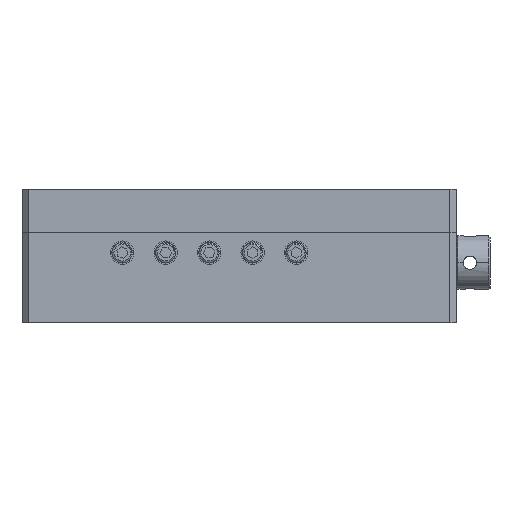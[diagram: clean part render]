
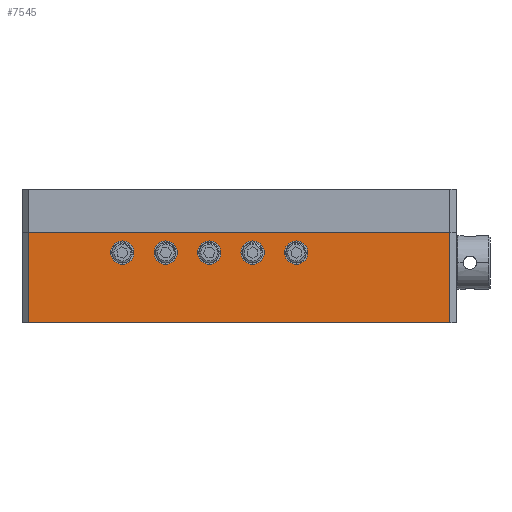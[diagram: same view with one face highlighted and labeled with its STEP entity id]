
A CAD part, front view. The second image highlights one B-rep face of the part: STEP entity #7545.
In plain terms, the highlighted planar face has unit normal (0, -1, 0).
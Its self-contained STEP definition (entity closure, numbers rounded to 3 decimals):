
#744=DIRECTION('',(1.,0.,0.));
#745=VECTOR('',#744,63.);
#746=CARTESIAN_POINT('',(-31.5,-32.5,15.5));
#747=LINE('',#746,#745);
#822=CARTESIAN_POINT('',(8.5,-32.5,12.5));
#823=DIRECTION('',(0.,-1.,0.));
#824=DIRECTION('',(1.,0.,0.));
#825=AXIS2_PLACEMENT_3D('',#822,#823,#824);
#827=CARTESIAN_POINT('',(8.5,-32.5,12.5));
#828=DIRECTION('',(0.,-1.,0.));
#829=DIRECTION('',(-1.,0.,0.));
#830=AXIS2_PLACEMENT_3D('',#827,#828,#829);
#832=CARTESIAN_POINT('',(2.,-32.5,12.5));
#833=DIRECTION('',(0.,-1.,0.));
#834=DIRECTION('',(1.,0.,0.));
#835=AXIS2_PLACEMENT_3D('',#832,#833,#834);
#837=CARTESIAN_POINT('',(2.,-32.5,12.5));
#838=DIRECTION('',(0.,-1.,0.));
#839=DIRECTION('',(-1.,0.,0.));
#840=AXIS2_PLACEMENT_3D('',#837,#838,#839);
#842=CARTESIAN_POINT('',(-4.5,-32.5,12.5));
#843=DIRECTION('',(0.,-1.,0.));
#844=DIRECTION('',(1.,0.,0.));
#845=AXIS2_PLACEMENT_3D('',#842,#843,#844);
#847=CARTESIAN_POINT('',(-4.5,-32.5,12.5));
#848=DIRECTION('',(0.,-1.,0.));
#849=DIRECTION('',(-1.,0.,0.));
#850=AXIS2_PLACEMENT_3D('',#847,#848,#849);
#852=CARTESIAN_POINT('',(-11.,-32.5,12.5));
#853=DIRECTION('',(0.,-1.,0.));
#854=DIRECTION('',(1.,0.,0.));
#855=AXIS2_PLACEMENT_3D('',#852,#853,#854);
#857=CARTESIAN_POINT('',(-11.,-32.5,12.5));
#858=DIRECTION('',(0.,-1.,0.));
#859=DIRECTION('',(-1.,0.,0.));
#860=AXIS2_PLACEMENT_3D('',#857,#858,#859);
#862=CARTESIAN_POINT('',(-17.5,-32.5,12.5));
#863=DIRECTION('',(0.,-1.,0.));
#864=DIRECTION('',(1.,0.,0.));
#865=AXIS2_PLACEMENT_3D('',#862,#863,#864);
#867=CARTESIAN_POINT('',(-17.5,-32.5,12.5));
#868=DIRECTION('',(0.,-1.,0.));
#869=DIRECTION('',(-1.,0.,0.));
#870=AXIS2_PLACEMENT_3D('',#867,#868,#869);
#872=DIRECTION('',(1.,0.,0.));
#873=VECTOR('',#872,63.);
#874=CARTESIAN_POINT('',(-31.5,-32.5,2.));
#875=LINE('',#874,#873);
#876=DIRECTION('',(0.,0.,-1.));
#877=VECTOR('',#876,13.5);
#878=CARTESIAN_POINT('',(-31.5,-32.5,15.5));
#879=LINE('',#878,#877);
#880=DIRECTION('',(0.,0.,1.));
#881=VECTOR('',#880,13.5);
#882=CARTESIAN_POINT('',(31.5,-32.5,2.));
#883=LINE('',#882,#881);
#5812=CARTESIAN_POINT('',(31.5,-32.5,15.5));
#5814=VERTEX_POINT('',#5812);
#5816=CARTESIAN_POINT('',(-31.5,-32.5,15.5));
#5817=VERTEX_POINT('',#5816);
#6244=CARTESIAN_POINT('',(10.25,-32.5,12.5));
#6245=CARTESIAN_POINT('',(6.75,-32.5,12.5));
#6246=VERTEX_POINT('',#6244);
#6247=VERTEX_POINT('',#6245);
#6248=CARTESIAN_POINT('',(3.75,-32.5,12.5));
#6249=CARTESIAN_POINT('',(0.25,-32.5,12.5));
#6250=VERTEX_POINT('',#6248);
#6251=VERTEX_POINT('',#6249);
#6252=CARTESIAN_POINT('',(-2.75,-32.5,12.5));
#6253=CARTESIAN_POINT('',(-6.25,-32.5,12.5));
#6254=VERTEX_POINT('',#6252);
#6255=VERTEX_POINT('',#6253);
#6256=CARTESIAN_POINT('',(-9.25,-32.5,12.5));
#6257=CARTESIAN_POINT('',(-12.75,-32.5,12.5));
#6258=VERTEX_POINT('',#6256);
#6259=VERTEX_POINT('',#6257);
#6260=CARTESIAN_POINT('',(-15.75,-32.5,12.5));
#6261=CARTESIAN_POINT('',(-19.25,-32.5,12.5));
#6262=VERTEX_POINT('',#6260);
#6263=VERTEX_POINT('',#6261);
#6287=CARTESIAN_POINT('',(31.5,-32.5,2.));
#6289=VERTEX_POINT('',#6287);
#6291=CARTESIAN_POINT('',(-31.5,-32.5,2.));
#6292=VERTEX_POINT('',#6291);
#7503=CARTESIAN_POINT('',(32.5,-32.5,0.));
#7504=DIRECTION('',(0.,-1.,0.));
#7505=DIRECTION('',(0.,0.,-1.));
#7506=AXIS2_PLACEMENT_3D('',#7503,#7504,#7505);
#7507=PLANE('',#7506);
#7508=ORIENTED_EDGE('',*,*,#7473,.F.);
#7510=ORIENTED_EDGE('',*,*,#7509,.F.);
#7511=ORIENTED_EDGE('',*,*,#7384,.T.);
#7512=ORIENTED_EDGE('',*,*,#7496,.F.);
#7513=EDGE_LOOP('',(#7508,#7510,#7511,#7512));
#7514=FACE_OUTER_BOUND('',#7513,.F.);
#7516=ORIENTED_EDGE('',*,*,#7515,.T.);
#7518=ORIENTED_EDGE('',*,*,#7517,.T.);
#7519=EDGE_LOOP('',(#7516,#7518));
#7520=FACE_BOUND('',#7519,.F.);
#7522=ORIENTED_EDGE('',*,*,#7521,.T.);
#7524=ORIENTED_EDGE('',*,*,#7523,.T.);
#7525=EDGE_LOOP('',(#7522,#7524));
#7526=FACE_BOUND('',#7525,.F.);
#7528=ORIENTED_EDGE('',*,*,#7527,.T.);
#7530=ORIENTED_EDGE('',*,*,#7529,.T.);
#7531=EDGE_LOOP('',(#7528,#7530));
#7532=FACE_BOUND('',#7531,.F.);
#7534=ORIENTED_EDGE('',*,*,#7533,.T.);
#7536=ORIENTED_EDGE('',*,*,#7535,.T.);
#7537=EDGE_LOOP('',(#7534,#7536));
#7538=FACE_BOUND('',#7537,.F.);
#7540=ORIENTED_EDGE('',*,*,#7539,.T.);
#7542=ORIENTED_EDGE('',*,*,#7541,.T.);
#7543=EDGE_LOOP('',(#7540,#7542));
#7544=FACE_BOUND('',#7543,.F.);
#7545=ADVANCED_FACE('',(#7514,#7520,#7526,#7532,#7538,#7544),#7507,.T.);
#826=CIRCLE('',#825,1.75);
#831=CIRCLE('',#830,1.75);
#836=CIRCLE('',#835,1.75);
#841=CIRCLE('',#840,1.75);
#846=CIRCLE('',#845,1.75);
#851=CIRCLE('',#850,1.75);
#856=CIRCLE('',#855,1.75);
#861=CIRCLE('',#860,1.75);
#866=CIRCLE('',#865,1.75);
#871=CIRCLE('',#870,1.75);
#7384=EDGE_CURVE('',#5817,#5814,#747,.T.);
#7473=EDGE_CURVE('',#6292,#6289,#875,.T.);
#7496=EDGE_CURVE('',#6289,#5814,#883,.T.);
#7509=EDGE_CURVE('',#5817,#6292,#879,.T.);
#7515=EDGE_CURVE('',#6250,#6251,#836,.T.);
#7517=EDGE_CURVE('',#6251,#6250,#841,.T.);
#7521=EDGE_CURVE('',#6254,#6255,#846,.T.);
#7523=EDGE_CURVE('',#6255,#6254,#851,.T.);
#7527=EDGE_CURVE('',#6258,#6259,#856,.T.);
#7529=EDGE_CURVE('',#6259,#6258,#861,.T.);
#7533=EDGE_CURVE('',#6262,#6263,#866,.T.);
#7535=EDGE_CURVE('',#6263,#6262,#871,.T.);
#7539=EDGE_CURVE('',#6246,#6247,#826,.T.);
#7541=EDGE_CURVE('',#6247,#6246,#831,.T.);
